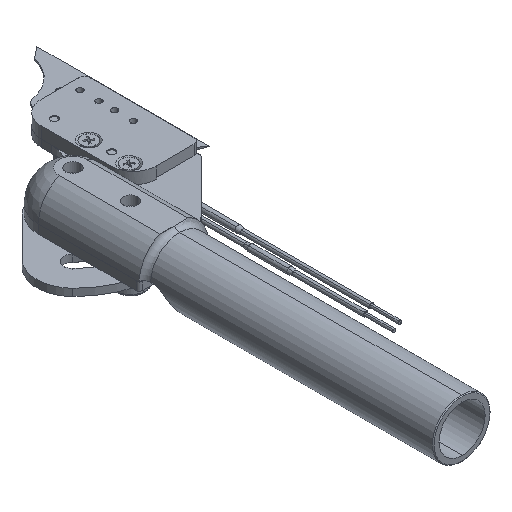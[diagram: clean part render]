
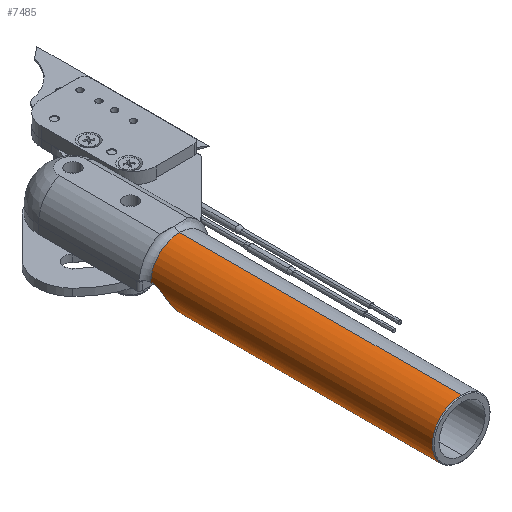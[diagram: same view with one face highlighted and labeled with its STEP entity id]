
A CAD part, isometric view. The second image highlights one B-rep face of the part: STEP entity #7485.
In plain terms, the highlighted cylindrical face has radius 10 mm (diameter 20 mm), a partial arc.
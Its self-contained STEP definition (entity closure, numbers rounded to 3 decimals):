
#100 = CARTESIAN_POINT ( 'NONE',  ( -9.979, 95.113, -0.659 ) ) ;
#128 = DIRECTION ( 'NONE',  ( 0., 0., 1. ) ) ;
#356 = LINE ( 'NONE', #9446, #3549 ) ;
#556 = DIRECTION ( 'NONE',  ( 0., 0., -1. ) ) ;
#677 = EDGE_CURVE ( 'NONE', #6614, #6125, #4441, .T. ) ;
#763 = VERTEX_POINT ( 'NONE', #9268 ) ;
#772 = CARTESIAN_POINT ( 'NONE',  ( -9.889, 94., -1.51 ) ) ;
#867 = CARTESIAN_POINT ( 'NONE',  ( -9.952, 94.612, -0.988 ) ) ;
#956 = VERTEX_POINT ( 'NONE', #2166 ) ;
#1041 = CARTESIAN_POINT ( 'NONE',  ( 0., 100., -10. ) ) ;
#1143 = ORIENTED_EDGE ( 'NONE', *, *, #677, .T. ) ;
#1278 = CARTESIAN_POINT ( 'NONE',  ( -8.724, 90.152, -6.924 ) ) ;
#1424 = ORIENTED_EDGE ( 'NONE', *, *, #8620, .T. ) ;
#1464 = VERTEX_POINT ( 'NONE', #6566 ) ;
#1620 = AXIS2_PLACEMENT_3D ( 'NONE', #2045, #7353, #556 ) ;
#1657 = CARTESIAN_POINT ( 'NONE',  ( -9.989, 95.467, -0.475 ) ) ;
#1756 = DIRECTION ( 'NONE',  ( 0., -1., 0. ) ) ;
#1961 = VECTOR ( 'NONE', #1756, 1000. ) ;
#1995 = ORIENTED_EDGE ( 'NONE', *, *, #4456, .F. ) ;
#2039 = CARTESIAN_POINT ( 'NONE',  ( 0., 87.998, -10. ) ) ;
#2045 = CARTESIAN_POINT ( 'NONE',  ( 0., 100., 0. ) ) ;
#2099 = ORIENTED_EDGE ( 'NONE', *, *, #7015, .T. ) ;
#2166 = CARTESIAN_POINT ( 'NONE',  ( -10., 97.603, 0. ) ) ;
#2371 = CARTESIAN_POINT ( 'NONE',  ( 0., 0.3, -10. ) ) ;
#2388 = CARTESIAN_POINT ( 'NONE',  ( -10., 97.603, 0. ) ) ;
#2577 = EDGE_CURVE ( 'NONE', #956, #763, #7204, .T. ) ;
#2620 = EDGE_CURVE ( 'NONE', #6125, #956, #6517, .T. ) ;
#2632 = DIRECTION ( 'NONE',  ( 0., -1., 0. ) ) ;
#3095 = CARTESIAN_POINT ( 'NONE',  ( -9.997, 96.026, -0.251 ) ) ;
#3250 = VECTOR ( 'NONE', #9339, 1000. ) ;
#3270 = LINE ( 'NONE', #1041, #1961 ) ;
#3287 = CIRCLE ( 'NONE', #9207, 10. ) ;
#3465 = CARTESIAN_POINT ( 'NONE',  ( -9.77, 93.507, -2.132 ) ) ;
#3549 = VECTOR ( 'NONE', #2632, 1000. ) ;
#3770 = CARTESIAN_POINT ( 'NONE',  ( -10., 98., 0. ) ) ;
#3885 = CARTESIAN_POINT ( 'NONE',  ( -9.998, 96.219, -0.191 ) ) ;
#4188 = VERTEX_POINT ( 'NONE', #2371 ) ;
#4441 = CIRCLE ( 'NONE', #8097, 10. ) ;
#4456 = EDGE_CURVE ( 'NONE', #6614, #1464, #356, .T. ) ;
#4602 = CARTESIAN_POINT ( 'NONE',  ( -9.77, 93.507, -2.132 ) ) ;
#5180 = EDGE_LOOP ( 'NONE', ( #1995, #1143, #5445, #9421, #2099, #1424, #8594 ) ) ;
#5445 = ORIENTED_EDGE ( 'NONE', *, *, #2620, .T. ) ;
#5581 = CARTESIAN_POINT ( 'NONE',  ( -10., 100., 0. ) ) ;
#6125 = VERTEX_POINT ( 'NONE', #3770 ) ;
#6127 =( BOUNDED_CURVE ( )  B_SPLINE_CURVE ( 3, ( #3465, #1278, #8834, #2039 ),
 .UNSPECIFIED., .F., .F. ) 
 B_SPLINE_CURVE_WITH_KNOTS ( ( 4, 4 ),
 ( 4.927, 6.283 ),
 .UNSPECIFIED. ) 
 CURVE ( )  GEOMETRIC_REPRESENTATION_ITEM ( )  RATIONAL_B_SPLINE_CURVE ( ( 1., 0.853, 0.853, 1. ) ) 
 REPRESENTATION_ITEM ( '' )  );
#6463 = CARTESIAN_POINT ( 'NONE',  ( 0., 0.3, 0. ) ) ;
#6509 = CARTESIAN_POINT ( 'NONE',  ( 0., 87.998, -10. ) ) ;
#6517 = LINE ( 'NONE', #5581, #3250 ) ;
#6561 = VERTEX_POINT ( 'NONE', #6509 ) ;
#6566 = CARTESIAN_POINT ( 'NONE',  ( 0., 0.3, 10. ) ) ;
#6614 = VERTEX_POINT ( 'NONE', #7975 ) ;
#6816 = CYLINDRICAL_SURFACE ( 'NONE', #1620, 10. ) ;
#6934 = DIRECTION ( 'NONE',  ( 0., -1., 0. ) ) ;
#7015 = EDGE_CURVE ( 'NONE', #763, #6561, #6127, .T. ) ;
#7171 = FACE_OUTER_BOUND ( 'NONE', #5180, .T. ) ;
#7204 = B_SPLINE_CURVE_WITH_KNOTS ( 'NONE', 3,
 ( #2388, #7538, #7635, #3885, #3095, #9146, #1657, #100, #7668, #867, #8297, #772, #9058, #4602 ),
 .UNSPECIFIED., .F., .F.,
 ( 4, 2, 2, 2, 2, 2, 4 ),
 ( 0., 0.001, 0.002, 0.002, 0.003, 0.004, 0.005 ),
 .UNSPECIFIED. ) ;
#7258 = DIRECTION ( 'NONE',  ( 0., 1., 0. ) ) ;
#7353 = DIRECTION ( 'NONE',  ( 0., -1., 0. ) ) ;
#7428 = EDGE_CURVE ( 'NONE', #4188, #1464, #3287, .T. ) ;
#7485 = ADVANCED_FACE ( 'NONE', ( #7171 ), #6816, .T. ) ;
#7538 = CARTESIAN_POINT ( 'NONE',  ( -10., 97.198, 0. ) ) ;
#7635 = CARTESIAN_POINT ( 'NONE',  ( -10., 96.802, -0.048 ) ) ;
#7668 = CARTESIAN_POINT ( 'NONE',  ( -9.972, 94.942, -0.762 ) ) ;
#7698 = CARTESIAN_POINT ( 'NONE',  ( 0., 98., 0. ) ) ;
#7975 = CARTESIAN_POINT ( 'NONE',  ( 0., 98., 10. ) ) ;
#8097 = AXIS2_PLACEMENT_3D ( 'NONE', #7698, #6934, #128 ) ;
#8297 = CARTESIAN_POINT ( 'NONE',  ( -9.939, 94.452, -1.113 ) ) ;
#8594 = ORIENTED_EDGE ( 'NONE', *, *, #7428, .T. ) ;
#8620 = EDGE_CURVE ( 'NONE', #6561, #4188, #3270, .T. ) ;
#8834 = CARTESIAN_POINT ( 'NONE',  ( -4.904, 87.998, -10. ) ) ;
#9058 = CARTESIAN_POINT ( 'NONE',  ( -9.841, 93.736, -1.806 ) ) ;
#9146 = CARTESIAN_POINT ( 'NONE',  ( -9.993, 95.649, -0.393 ) ) ;
#9207 = AXIS2_PLACEMENT_3D ( 'NONE', #6463, #7258, #9459 ) ;
#9268 = CARTESIAN_POINT ( 'NONE',  ( -9.77, 93.507, -2.132 ) ) ;
#9339 = DIRECTION ( 'NONE',  ( 0., -1., 0. ) ) ;
#9421 = ORIENTED_EDGE ( 'NONE', *, *, #2577, .T. ) ;
#9446 = CARTESIAN_POINT ( 'NONE',  ( 0., 100., 10. ) ) ;
#9459 = DIRECTION ( 'NONE',  ( 0., 0., 1. ) ) ;
